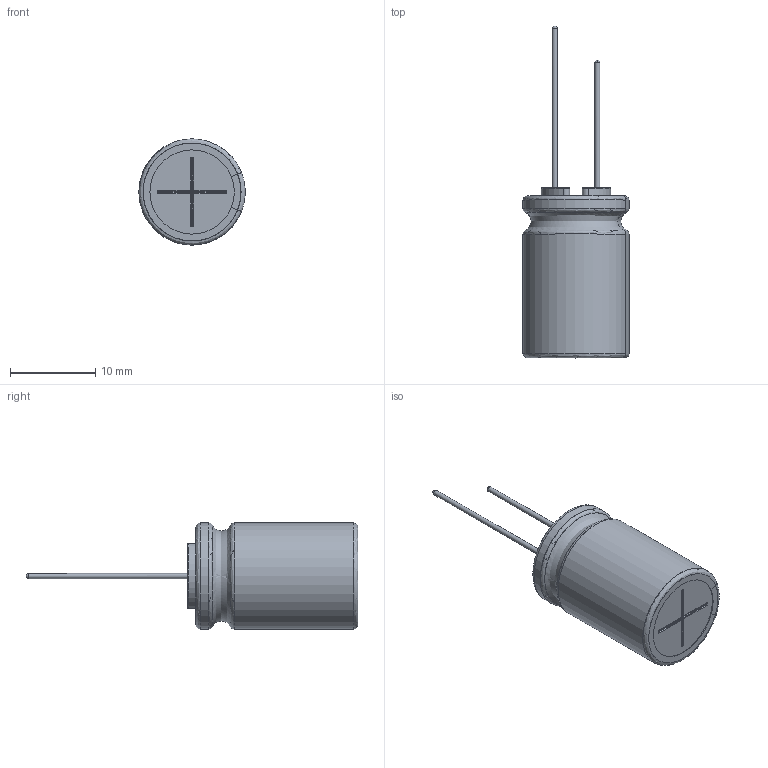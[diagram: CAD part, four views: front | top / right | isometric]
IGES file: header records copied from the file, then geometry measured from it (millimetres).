
Start section: JAMA-IS VERSION  1.0
Bounding box: 12.48 x 39 x 12.5 mm (x, y, z)
Surface area: 2762.1 mm2 (no closed solid volume)
Topology: 0 solids, 0 shells, 132 faces, 1445 edges, 1424 vertices
Faces by surface type: bspline 132
